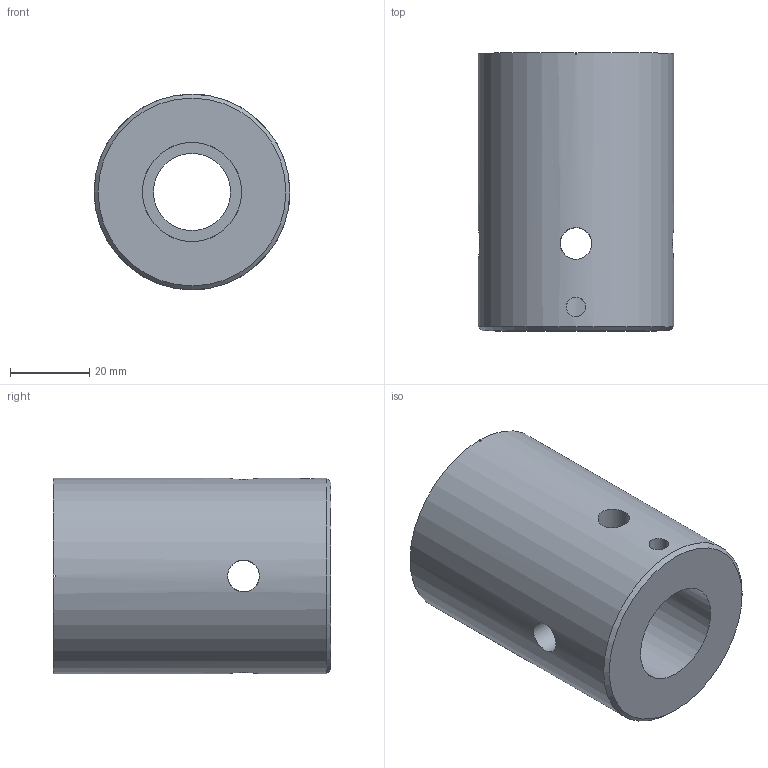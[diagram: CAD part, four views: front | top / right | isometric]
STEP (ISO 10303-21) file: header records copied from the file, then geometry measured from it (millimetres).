
FILE_DESCRIPTION(('STEP AP203'), '1');
FILE_NAME('L1.274.001 Âòóëêà øíåêà', '', ('UNSPECIFIED'), ('UNSPECIFIED'), 'C3D Converter', 'C3D Toolkit', '');
FILE_SCHEMA(('CONFIG_CONTROL_DESIGN'));
Length unit declared in the file: millimetre
Bounding box: 49.3 x 70 x 49.3 mm (x, y, z)
Volume: 95386 mm3; surface area: 21077.9 mm2
Topology: 1 solids, 1 shells, 37 faces, 112 edges, 76 vertices
Faces by surface type: plane 26, cylinder 9, cone 2
Full cylindrical faces by diameter (mm): 4.917 x1, 8 x4, 10 x1, 19.4 x1, 25 x1, 49.3 x1
Entity records: 2936 total; most frequent: CARTESIAN_POINT 1916, DIRECTION 186, ORIENTED_EDGE 186, EDGE_CURVE 93, VERTEX_POINT 69, AXIS2_PLACEMENT_3D 63, EDGE_LOOP 60, LINE 60
